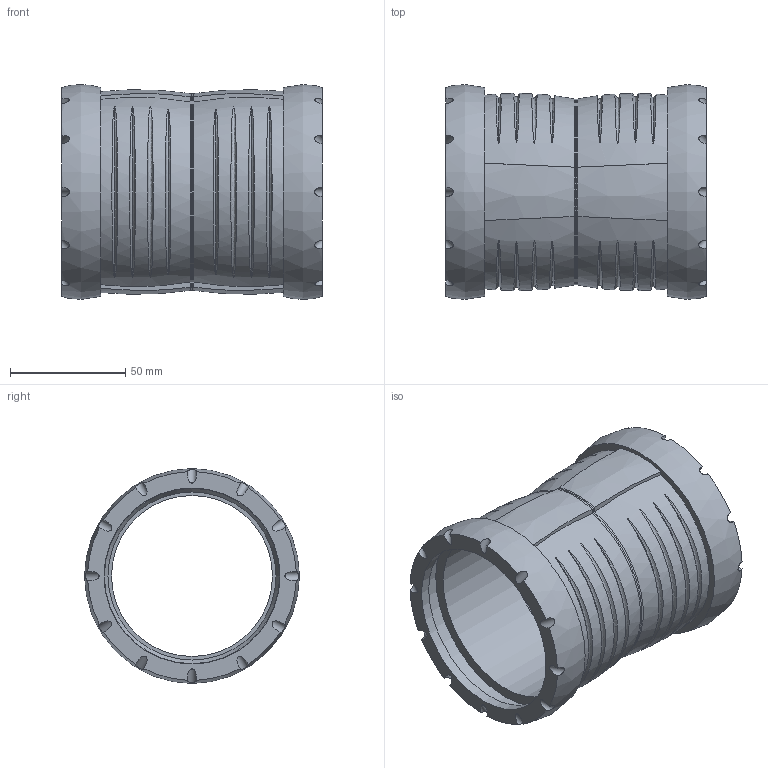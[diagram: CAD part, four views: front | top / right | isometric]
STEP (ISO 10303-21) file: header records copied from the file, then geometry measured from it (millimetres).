
FILE_DESCRIPTION(/* description */ (''),/* implementation_level */ '2;1');
FILE_NAME(/* name */ 'H:\Geberit-Teile\Export\Doppelsteckmuffe\stp\393316.stp',/* time_stamp */ '2017-02-14T08:57:11+01:00',/* author */ ('seihe2'),/* organization */ (''),/* preprocessor_version */ 'ST-DEVELOPER v15.2',/* originating_system */ 'Autodesk Inventor 2014',/* authorisation */ '');
FILE_SCHEMA (('AUTOMOTIVE_DESIGN { 1 0 10303 214 3 1 1 }'));
Length unit declared in the file: millimetre
Products named in the file (1): 393316
Bounding box: 113 x 93 x 93 mm (x, y, z)
Volume: 140661.1 mm3; surface area: 73893.5 mm2
Topology: 2 solids, 2 shells, 108 faces, 258 edges, 178 vertices
Faces by surface type: bspline 58, cylinder 36, plane 12, cone 2
Full cylindrical faces by diameter (mm): 69.7 x2, 75.9 x2, 76.2 x2, 85 x2
Entity records: 7955 total; most frequent: CARTESIAN_POINT 5717, ORIENTED_EDGE 492, DIRECTION 306, EDGE_CURVE 246, VERTEX_POINT 176, EDGE_LOOP 146, AXIS2_PLACEMENT_3D 145, B_SPLINE_CURVE_WITH_KNOTS 134
